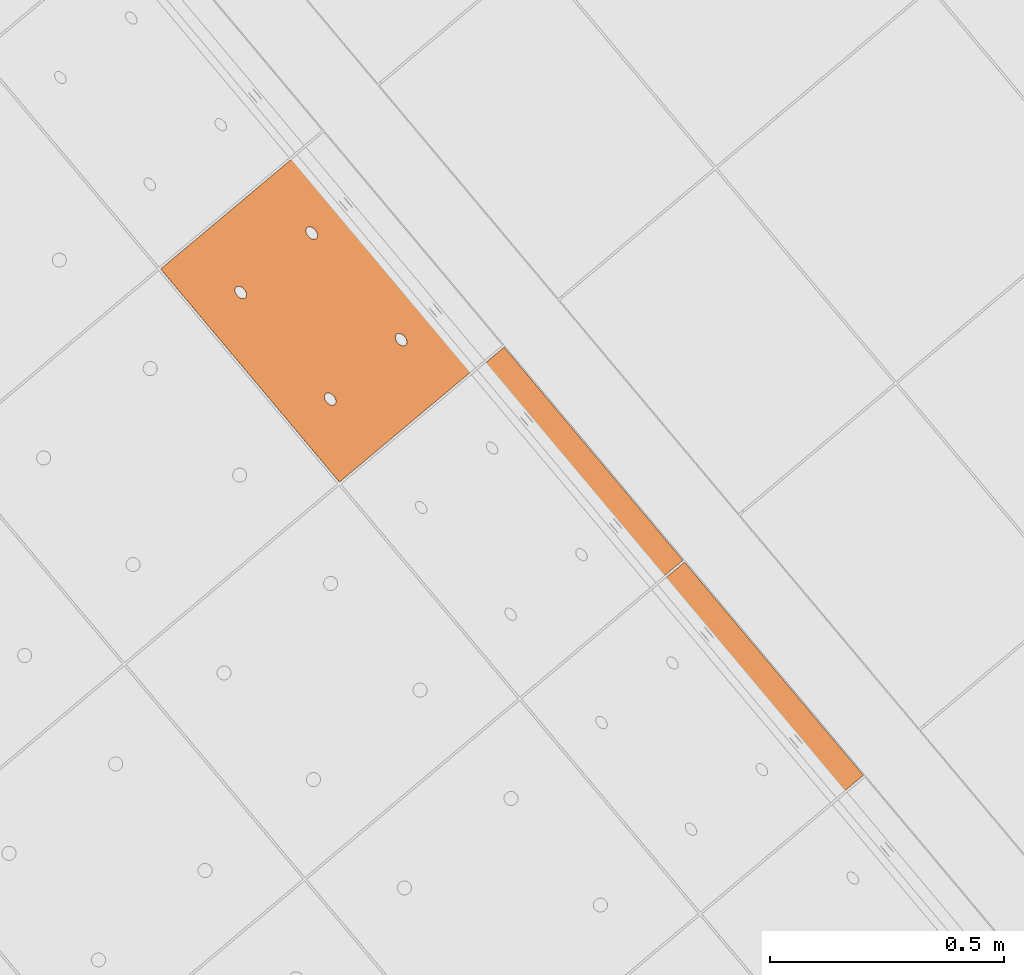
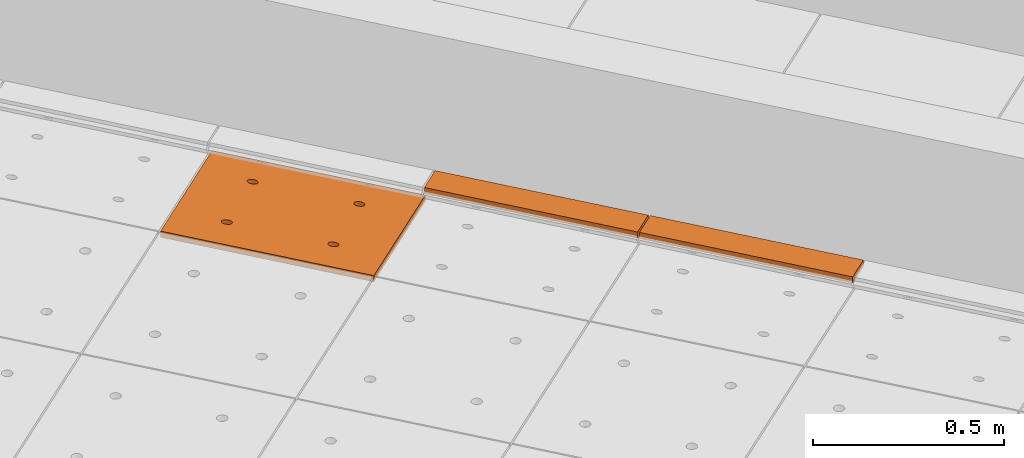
# One storey, part 205 of 338: 3 proxies, 1 element without a shape of its own.
"""IFC2X3 building model written with IfcOpenShell, lengths in millimetres."""

from ifc_helpers import new_model, entity, si_unit, converted_unit, derived_unit, money_unit, direction, frame, origin_with_axes, place, context, subcontext, project, spatial, faceted_brep, source, transform, mapped, material, type_object, type_shapes, element, aggregate, save


model = new_model("IFC2X3")

# Units and contexts
model_context = context("Model", 3, precision=0.01, world=origin_with_axes(), true_north=direction((0.0, 1.0)))
plan_context = context("Plan", 3, precision=0.01, world=origin_with_axes(), true_north=direction((0.0, 1.0)))
body_context = subcontext(model_context, "Body", "Model", "MODEL_VIEW")
ifc_project = project(units=[si_unit("LENGTHUNIT", "METRE", prefix="MILLI"), si_unit("AREAUNIT", "SQUARE_METRE"), si_unit("VOLUMEUNIT", "CUBIC_METRE"), converted_unit("PLANEANGLEUNIT", "DEGREE", entity("IfcPlaneAngleMeasure", 0.0174532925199), si_unit("PLANEANGLEUNIT", "RADIAN"), dimensions=[0, 0, 0, 0, 0, 0, 0]), money_unit("EUR"), converted_unit("TIMEUNIT", "Year", entity("IfcTimeMeasure", 31556926.0), si_unit("TIMEUNIT", "SECOND"), dimensions=[0, 0, 1, 0, 0, 0, 0]), si_unit("MASSUNIT", "GRAM", prefix="KILO"), si_unit("THERMODYNAMICTEMPERATUREUNIT", "DEGREE_CELSIUS"), si_unit("LUMINOUSINTENSITYUNIT", "LUMEN"), si_unit("ENERGYUNIT", "JOULE", prefix="MEGA"), derived_unit("THERMALCONDUCTANCEUNIT", [(si_unit("POWERUNIT", "WATT"), 1), (si_unit("LENGTHUNIT", "METRE"), -1), (si_unit("THERMODYNAMICTEMPERATUREUNIT", "KELVIN"), -1)]), derived_unit("SPECIFICHEATCAPACITYUNIT", [(si_unit("ENERGYUNIT", "JOULE"), 1), (si_unit("MASSUNIT", "GRAM", prefix="KILO"), -1), (si_unit("THERMODYNAMICTEMPERATUREUNIT", "KELVIN"), -1)]), derived_unit("MASSDENSITYUNIT", [(si_unit("MASSUNIT", "GRAM", prefix="KILO"), 1), (si_unit("VOLUMEUNIT", "CUBIC_METRE"), -1)])], contexts=[model_context, plan_context])

# Site, building, storey
site_placement = place(None, origin_with_axes())
site = spatial("IfcSite", under=ifc_project, at=site_placement, Name="Fortuinstraat Woensdrecht", CompositionType="ELEMENT")
building_placement = place(site_placement, origin_with_axes())
building = spatial("IfcBuilding", under=site, at=building_placement, Name="IKC Fortuna", CompositionType="ELEMENT")
storey_placement = place(building_placement, origin_with_axes())
storey = spatial("IfcBuildingStorey", under=building, at=storey_placement, Name="00 begane grond", CompositionType="ELEMENT", Elevation=0.0)

# Covering, proxies
covering_type = type_object("IfcCoveringType", Name="Curtain Wall Type", PredefinedType="CEILING")
covering_placement = place(storey_placement, frame((15863.124366, 4456.31398675, 4619.99995334), z_axis=(0.0, 0.0, 1.0), x_axis=(1.0, 0.0, 0.0)))
covering = element("IfcCovering", 1, at=covering_placement, inside=storey, type_object=covering_type, Name="45_Plafondafwerking_P01", PredefinedType="CEILING")
ifc_material = material(Name="Gipsplaat")
building_element_proxy_type_1 = type_object("IfcBuildingElementProxyType", Name="87 x 600 x 20", PredefinedType="NOTDEFINED")
shared_shape_1 = source(origin_with_axes(), body_context, "Body", "Brep", [
    faceted_brep([(142.231818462, 2.49999429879, -10.0), (224.589025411, 2.49999726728, -10.0), (224.589025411, 2.49999726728, 10.0), (142.231818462, 2.49999429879, 10.0), (142.231833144, 597.500001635, -10.0), (224.589035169, 597.499998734, -10.0), (224.589035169, 597.499998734, 10.0), (142.231833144, 597.500001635, 10.0)], [[[0, 1, 2, 3]], [[0, 4, 5, 1]], [[1, 5, 6, 2]], [[3, 2, 6, 7]], [[4, 0, 3, 7]], [[5, 4, 7, 6]]]),
])
proxy_1_placement = place(covering_placement, frame((-1369.97061144, 1632.66657941, 40.0000466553), z_axis=(0.0, 0.0, 1.0), x_axis=(1.0, 0.0, 0.0)))
proxy_1 = element("IfcBuildingElementProxy", 2, at=proxy_1_placement, type_object=building_element_proxy_type_1, material=ifc_material, Name="__600x735 Rockfon Krios", context=body_context, shape_type="MappedRepresentation", body=[
    mapped(shared_shape_1, transform((-52.3358293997, 347.707272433, -1.1901590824e-10), x_axis=(-0.766044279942, -0.642787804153, 0.0), y_axis=(0.642787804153, -0.766044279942, 0.0), z_axis=(0.0, 0.0, 1.0))),
])
shared_shape_2 = source(origin_with_axes(), body_context, "Body", "Brep", [
    faceted_brep([(142.231825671, 2.50000288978, -10.0), (224.589027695, 2.49999998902, -10.0), (224.589027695, 2.49999998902, 10.0), (142.231825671, 2.50000288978, 10.0), (142.231835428, 597.500004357, -10.0), (224.589037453, 597.500001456, -10.0), (224.589037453, 597.500001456, 10.0), (142.231835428, 597.500004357, 10.0)], [[[0, 1, 2, 3]], [[0, 4, 5, 1]], [[1, 5, 6, 2]], [[3, 2, 6, 7]], [[4, 0, 3, 7]], [[5, 4, 7, 6]]]),
])
type_shapes(building_element_proxy_type_1, [shared_shape_1, shared_shape_2])
proxy_2_placement = place(covering_placement, frame((-984.29792895, 1173.04001144, 40.0000466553), z_axis=(0.0, 0.0, 1.0), x_axis=(1.0, 0.0, 0.0)))
proxy_2 = element("IfcBuildingElementProxy", 3, at=proxy_2_placement, type_object=building_element_proxy_type_1, material=ifc_material, Name="__600x655 Rockfon Krios", context=body_context, shape_type="MappedRepresentation", body=[
    mapped(shared_shape_2, transform((-52.3358293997, 347.707272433, -1.1901590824e-10), x_axis=(-0.766044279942, -0.642787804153, 0.0), y_axis=(0.642787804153, -0.766044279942, 0.0), z_axis=(0.0, 0.0, 1.0))),
])
building_element_proxy_type_2 = type_object("IfcBuildingElementProxyType", Name="Main Panel 401 x 600 x 20", PredefinedType="NOTDEFINED")
shared_shape_3 = source(origin_with_axes(), body_context, "Body", "Brep", [
    faceted_brep([(2.49999200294, 2.49999800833, -10.0), (200.390796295, 2.49999800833, -10.0), (200.390796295, 2.49999800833, 10.0), (2.49999200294, 2.49999800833, 10.0), (2.49999200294, 299.999999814, -10.0), (2.49999200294, 597.50000162, -10.0), (200.390796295, 597.50000162, -10.0), (398.281600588, 597.50000162, -10.0), (398.281600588, 299.999999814, -10.0), (398.281600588, 2.49999800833, -10.0), (111.423081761, 450.062330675, -10.0), (111.119914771, 452.647116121, -10.0), (110.522792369, 455.113489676, -10.0), (109.649857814, 457.38651185, -10.0), (108.527634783, 459.397117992, -10.0), (107.190221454, 461.084216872, -10.0), (105.678254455, 462.39654683, -10.0), (104.037674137, 463.294233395, -10.0), (102.318328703, 463.750000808, -10.0), (100.572459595, 463.750000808, -10.0), (98.8531141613, 463.294233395, -10.0), (97.212533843, 462.39654683, -10.0), (95.7005668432, 461.084216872, -10.0), (94.3631535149, 459.397117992, -10.0), (93.240930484, 457.38651185, -10.0), (92.3679959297, 455.113489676, -10.0), (91.7708735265, 452.647116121, -10.0), (91.4677065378, 450.062330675, -10.0), (91.4677065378, 448.750000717, -10.0), (91.4677065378, 447.437670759, -10.0), (91.7708735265, 444.852885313, -10.0), (92.3679959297, 442.386511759, -10.0), (93.240930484, 440.113489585, -10.0), (94.3631535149, 438.102883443, -10.0), (95.7005668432, 436.415784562, -10.0), (97.212533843, 435.103454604, -10.0), (98.8531141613, 434.205768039, -10.0), (100.572459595, 433.750000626, -10.0), (102.318328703, 433.750000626, -10.0), (104.037674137, 434.205768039, -10.0), (105.678254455, 435.103454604, -10.0), (107.190221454, 436.415784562, -10.0), (108.527634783, 438.102883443, -10.0), (109.649857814, 440.113489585, -10.0), (110.522792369, 442.386511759, -10.0), (111.119914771, 444.852885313, -10.0), (111.423081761, 447.437670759, -10.0), (309.313886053, 450.062330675, -10.0), (309.010719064, 452.647116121, -10.0), (308.413596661, 455.113489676, -10.0), (307.540662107, 457.38651185, -10.0), (306.418439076, 459.397117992, -10.0), (305.081025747, 461.084216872, -10.0), (303.569058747, 462.39654683, -10.0), (301.928478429, 463.294233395, -10.0), (300.209132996, 463.750000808, -10.0), (298.463263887, 463.750000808, -10.0), (296.743918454, 463.294233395, -10.0), (295.103338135, 462.39654683, -10.0), (293.591371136, 461.084216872, -10.0), (292.253957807, 459.397117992, -10.0), (291.131734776, 457.38651185, -10.0), (290.258800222, 455.113489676, -10.0), (289.661677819, 452.647116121, -10.0), (289.35851083, 450.062330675, -10.0), (289.35851083, 448.750000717, -10.0), (289.35851083, 447.437670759, -10.0), (289.661677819, 444.852885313, -10.0), (290.258800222, 442.386511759, -10.0), (291.131734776, 440.113489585, -10.0), (292.253957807, 438.102883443, -10.0), (293.591371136, 436.415784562, -10.0), (295.103338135, 435.103454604, -10.0), (296.743918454, 434.205768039, -10.0), (298.463263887, 433.750000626, -10.0), (300.209132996, 433.750000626, -10.0), (301.928478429, 434.205768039, -10.0), (303.569058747, 435.103454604, -10.0), (305.081025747, 436.415784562, -10.0), (306.418439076, 438.102883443, -10.0), (307.540662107, 440.113489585, -10.0), (308.413596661, 442.386511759, -10.0), (309.010719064, 444.852885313, -10.0), (309.313886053, 447.437670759, -10.0), (309.313886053, 152.562328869, -10.0), (309.010719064, 155.147114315, -10.0), (308.413596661, 157.61348787, -10.0), (307.540662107, 159.886510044, -10.0), (306.418439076, 161.897116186, -10.0), (305.081025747, 163.584215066, -10.0), (303.569058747, 164.896545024, -10.0), (301.928478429, 165.79423159, -10.0), (300.209132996, 166.249999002, -10.0), (298.463263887, 166.249999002, -10.0), (296.743918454, 165.79423159, -10.0), (295.103338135, 164.896545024, -10.0), (293.591371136, 163.584215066, -10.0), (292.253957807, 161.897116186, -10.0), (291.131734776, 159.886510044, -10.0), (290.258800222, 157.61348787, -10.0), (289.661677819, 155.147114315, -10.0), (289.35851083, 152.562328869, -10.0), (289.35851083, 151.249998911, -10.0), (289.35851083, 149.937668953, -10.0), (289.661677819, 147.352883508, -10.0), (290.258800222, 144.886509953, -10.0), (291.131734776, 142.613487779, -10.0), (292.253957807, 140.602881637, -10.0), (293.591371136, 138.915782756, -10.0), (295.103338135, 137.603452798, -10.0), (296.743918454, 136.705766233, -10.0), (298.463263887, 136.24999882, -10.0), (300.209132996, 136.24999882, -10.0), (301.928478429, 136.705766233, -10.0), (303.569058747, 137.603452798, -10.0), (305.081025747, 138.915782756, -10.0), (306.418439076, 140.602881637, -10.0), (307.540662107, 142.613487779, -10.0), (308.413596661, 144.886509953, -10.0), (309.010719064, 147.352883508, -10.0), (309.313886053, 149.937668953, -10.0), (111.423081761, 152.562328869, -10.0), (111.119914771, 155.147114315, -10.0), (110.522792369, 157.61348787, -10.0), (109.649857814, 159.886510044, -10.0), (108.527634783, 161.897116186, -10.0), (107.190221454, 163.584215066, -10.0), (105.678254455, 164.896545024, -10.0), (104.037674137, 165.79423159, -10.0), (102.318328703, 166.249999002, -10.0), (100.572459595, 166.249999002, -10.0), (98.8531141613, 165.79423159, -10.0), (97.212533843, 164.896545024, -10.0), (95.7005668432, 163.584215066, -10.0), (94.3631535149, 161.897116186, -10.0), (93.240930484, 159.886510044, -10.0), (92.3679959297, 157.61348787, -10.0), (91.7708735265, 155.147114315, -10.0), (91.4677065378, 152.562328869, -10.0), (91.4677065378, 151.249998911, -10.0), (91.4677065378, 149.937668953, -10.0), (91.7708735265, 147.352883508, -10.0), (92.3679959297, 144.886509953, -10.0), (93.240930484, 142.613487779, -10.0), (94.3631535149, 140.602881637, -10.0), (95.7005668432, 138.915782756, -10.0), (97.212533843, 137.603452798, -10.0), (98.8531141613, 136.705766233, -10.0), (100.572459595, 136.24999882, -10.0), (102.318328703, 136.24999882, -10.0), (104.037674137, 136.705766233, -10.0), (105.678254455, 137.603452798, -10.0), (107.190221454, 138.915782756, -10.0), (108.527634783, 140.602881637, -10.0), (109.649857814, 142.613487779, -10.0), (110.522792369, 144.886509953, -10.0), (111.119914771, 147.352883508, -10.0), (111.423081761, 149.937668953, -10.0), (398.281600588, 2.49999800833, 10.0), (398.281600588, 299.999999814, 10.0), (398.281600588, 597.50000162, 10.0), (200.390796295, 597.50000162, 10.0), (2.49999200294, 597.50000162, 10.0), (2.49999200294, 299.999999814, 10.0), (111.423081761, 450.062330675, 10.0), (111.423081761, 447.437670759, 10.0), (111.119914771, 444.852885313, 10.0), (110.522792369, 442.386511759, 10.0), (109.649857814, 440.113489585, 10.0), (108.527634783, 438.102883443, 10.0), (107.190221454, 436.415784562, 10.0), (105.678254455, 435.103454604, 10.0), (104.037674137, 434.205768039, 10.0), (102.318328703, 433.750000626, 10.0), (100.572459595, 433.750000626, 10.0), (98.8531141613, 434.205768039, 10.0), (97.212533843, 435.103454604, 10.0), (95.7005668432, 436.415784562, 10.0), (94.3631535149, 438.102883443, 10.0), (93.240930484, 440.113489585, 10.0), (92.3679959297, 442.386511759, 10.0), (91.7708735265, 444.852885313, 10.0), (91.4677065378, 447.437670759, 10.0), (91.4677065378, 448.750000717, 10.0), (91.4677065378, 450.062330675, 10.0), (91.7708735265, 452.647116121, 10.0), (92.3679959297, 455.113489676, 10.0), (93.240930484, 457.38651185, 10.0), (94.3631535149, 459.397117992, 10.0), (95.7005668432, 461.084216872, 10.0), (97.212533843, 462.39654683, 10.0), (98.8531141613, 463.294233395, 10.0), (100.572459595, 463.750000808, 10.0), (102.318328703, 463.750000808, 10.0), (104.037674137, 463.294233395, 10.0), (105.678254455, 462.39654683, 10.0), (107.190221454, 461.084216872, 10.0), (108.527634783, 459.397117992, 10.0), (109.649857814, 457.38651185, 10.0), (110.522792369, 455.113489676, 10.0), (111.119914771, 452.647116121, 10.0), (309.313886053, 450.062330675, 10.0), (309.313886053, 447.437670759, 10.0), (309.010719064, 444.852885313, 10.0), (308.413596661, 442.386511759, 10.0), (307.540662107, 440.113489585, 10.0), (306.418439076, 438.102883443, 10.0), (305.081025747, 436.415784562, 10.0), (303.569058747, 435.103454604, 10.0), (301.928478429, 434.205768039, 10.0), (300.209132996, 433.750000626, 10.0), (298.463263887, 433.750000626, 10.0), (296.743918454, 434.205768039, 10.0), (295.103338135, 435.103454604, 10.0), (293.591371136, 436.415784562, 10.0), (292.253957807, 438.102883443, 10.0), (291.131734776, 440.113489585, 10.0), (290.258800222, 442.386511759, 10.0), (289.661677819, 444.852885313, 10.0), (289.35851083, 447.437670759, 10.0), (289.35851083, 448.750000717, 10.0), (289.35851083, 450.062330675, 10.0), (289.661677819, 452.647116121, 10.0), (290.258800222, 455.113489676, 10.0), (291.131734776, 457.38651185, 10.0), (292.253957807, 459.397117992, 10.0), (293.591371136, 461.084216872, 10.0), (295.103338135, 462.39654683, 10.0), (296.743918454, 463.294233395, 10.0), (298.463263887, 463.750000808, 10.0), (300.209132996, 463.750000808, 10.0), (301.928478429, 463.294233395, 10.0), (303.569058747, 462.39654683, 10.0), (305.081025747, 461.084216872, 10.0), (306.418439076, 459.397117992, 10.0), (307.540662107, 457.38651185, 10.0), (308.413596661, 455.113489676, 10.0), (309.010719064, 452.647116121, 10.0), (309.313886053, 152.562328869, 10.0), (309.313886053, 149.937668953, 10.0), (309.010719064, 147.352883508, 10.0), (308.413596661, 144.886509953, 10.0), (307.540662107, 142.613487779, 10.0), (306.418439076, 140.602881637, 10.0), (305.081025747, 138.915782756, 10.0), (303.569058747, 137.603452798, 10.0), (301.928478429, 136.705766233, 10.0), (300.209132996, 136.24999882, 10.0), (298.463263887, 136.24999882, 10.0), (296.743918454, 136.705766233, 10.0), (295.103338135, 137.603452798, 10.0), (293.591371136, 138.915782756, 10.0), (292.253957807, 140.602881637, 10.0), (291.131734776, 142.613487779, 10.0), (290.258800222, 144.886509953, 10.0), (289.661677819, 147.352883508, 10.0), (289.35851083, 149.937668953, 10.0), (289.35851083, 151.249998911, 10.0), (289.35851083, 152.562328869, 10.0), (289.661677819, 155.147114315, 10.0), (290.258800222, 157.61348787, 10.0), (291.131734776, 159.886510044, 10.0), (292.253957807, 161.897116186, 10.0), (293.591371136, 163.584215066, 10.0), (295.103338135, 164.896545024, 10.0), (296.743918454, 165.79423159, 10.0), (298.463263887, 166.249999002, 10.0), (300.209132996, 166.249999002, 10.0), (301.928478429, 165.79423159, 10.0), (303.569058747, 164.896545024, 10.0), (305.081025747, 163.584215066, 10.0), (306.418439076, 161.897116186, 10.0), (307.540662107, 159.886510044, 10.0), (308.413596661, 157.61348787, 10.0), (309.010719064, 155.147114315, 10.0), (111.423081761, 152.562328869, 10.0), (111.423081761, 149.937668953, 10.0), (111.119914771, 147.352883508, 10.0), (110.522792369, 144.886509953, 10.0), (109.649857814, 142.613487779, 10.0), (108.527634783, 140.602881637, 10.0), (107.190221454, 138.915782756, 10.0), (105.678254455, 137.603452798, 10.0), (104.037674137, 136.705766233, 10.0), (102.318328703, 136.24999882, 10.0), (100.572459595, 136.24999882, 10.0), (98.8531141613, 136.705766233, 10.0), (97.212533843, 137.603452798, 10.0), (95.7005668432, 138.915782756, 10.0), (94.3631535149, 140.602881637, 10.0), (93.240930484, 142.613487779, 10.0), (92.3679959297, 144.886509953, 10.0), (91.7708735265, 147.352883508, 10.0), (91.4677065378, 149.937668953, 10.0), (91.4677065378, 151.249998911, 10.0), (91.4677065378, 152.562328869, 10.0), (91.7708735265, 155.147114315, 10.0), (92.3679959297, 157.61348787, 10.0), (93.240930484, 159.886510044, 10.0), (94.3631535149, 161.897116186, 10.0), (95.7005668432, 163.584215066, 10.0), (97.212533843, 164.896545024, 10.0), (98.8531141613, 165.79423159, 10.0), (100.572459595, 166.249999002, 10.0), (102.318328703, 166.249999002, 10.0), (104.037674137, 165.79423159, 10.0), (105.678254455, 164.896545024, 10.0), (107.190221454, 163.584215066, 10.0), (108.527634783, 161.897116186, 10.0), (109.649857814, 159.886510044, 10.0), (110.522792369, 157.61348787, 10.0), (111.119914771, 155.147114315, 10.0)], [[[0, 1, 2, 3]], [[0, 4, 5, 6, 7, 8, 9, 1], [10, 11, 12, 13, 14, 15, 16, 17, 18, 19, 20, 21, 22, 23, 24, 25, 26, 27, 28, 29, 30, 31, 32, 33, 34, 35, 36, 37, 38, 39, 40, 41, 42, 43, 44, 45, 46], [47, 48, 49, 50, 51, 52, 53, 54, 55, 56, 57, 58, 59, 60, 61, 62, 63, 64, 65, 66, 67, 68, 69, 70, 71, 72, 73, 74, 75, 76, 77, 78, 79, 80, 81, 82, 83], [84, 85, 86, 87, 88, 89, 90, 91, 92, 93, 94, 95, 96, 97, 98, 99, 100, 101, 102, 103, 104, 105, 106, 107, 108, 109, 110, 111, 112, 113, 114, 115, 116, 117, 118, 119, 120], [121, 122, 123, 124, 125, 126, 127, 128, 129, 130, 131, 132, 133, 134, 135, 136, 137, 138, 139, 140, 141, 142, 143, 144, 145, 146, 147, 148, 149, 150, 151, 152, 153, 154, 155, 156, 157]], [[1, 9, 158, 2]], [[3, 2, 158, 159, 160, 161, 162, 163], [164, 165, 166, 167, 168, 169, 170, 171, 172, 173, 174, 175, 176, 177, 178, 179, 180, 181, 182, 183, 184, 185, 186, 187, 188, 189, 190, 191, 192, 193, 194, 195, 196, 197, 198, 199, 200], [201, 202, 203, 204, 205, 206, 207, 208, 209, 210, 211, 212, 213, 214, 215, 216, 217, 218, 219, 220, 221, 222, 223, 224, 225, 226, 227, 228, 229, 230, 231, 232, 233, 234, 235, 236, 237], [238, 239, 240, 241, 242, 243, 244, 245, 246, 247, 248, 249, 250, 251, 252, 253, 254, 255, 256, 257, 258, 259, 260, 261, 262, 263, 264, 265, 266, 267, 268, 269, 270, 271, 272, 273, 274], [275, 276, 277, 278, 279, 280, 281, 282, 283, 284, 285, 286, 287, 288, 289, 290, 291, 292, 293, 294, 295, 296, 297, 298, 299, 300, 301, 302, 303, 304, 305, 306, 307, 308, 309, 310, 311]], [[4, 0, 3, 163]], [[5, 4, 163, 162]], [[6, 5, 162, 161]], [[7, 6, 161, 160]], [[8, 7, 160, 159]], [[9, 8, 159, 158]], [[11, 10, 164, 200]], [[12, 11, 200, 199]], [[13, 12, 199, 198]], [[14, 13, 198, 197]], [[15, 14, 197, 196]], [[16, 15, 196, 195]], [[17, 16, 195, 194]], [[18, 17, 194, 193]], [[19, 18, 193, 192]], [[20, 19, 192, 191]], [[21, 20, 191, 190]], [[22, 21, 190, 189]], [[23, 22, 189, 188]], [[24, 23, 188, 187]], [[25, 24, 187, 186]], [[26, 25, 186, 185]], [[27, 26, 185, 184]], [[28, 27, 184, 183]], [[29, 28, 183, 182]], [[30, 29, 182, 181]], [[31, 30, 181, 180]], [[32, 31, 180, 179]], [[33, 32, 179, 178]], [[34, 33, 178, 177]], [[35, 34, 177, 176]], [[36, 35, 176, 175]], [[37, 36, 175, 174]], [[38, 37, 174, 173]], [[39, 38, 173, 172]], [[40, 39, 172, 171]], [[41, 40, 171, 170]], [[42, 41, 170, 169]], [[43, 42, 169, 168]], [[44, 43, 168, 167]], [[45, 44, 167, 166]], [[46, 45, 166, 165]], [[10, 46, 165, 164]], [[48, 47, 201, 237]], [[49, 48, 237, 236]], [[50, 49, 236, 235]], [[51, 50, 235, 234]], [[52, 51, 234, 233]], [[53, 52, 233, 232]], [[54, 53, 232, 231]], [[55, 54, 231, 230]], [[56, 55, 230, 229]], [[57, 56, 229, 228]], [[58, 57, 228, 227]], [[59, 58, 227, 226]], [[60, 59, 226, 225]], [[61, 60, 225, 224]], [[62, 61, 224, 223]], [[63, 62, 223, 222]], [[64, 63, 222, 221]], [[65, 64, 221, 220]], [[66, 65, 220, 219]], [[67, 66, 219, 218]], [[68, 67, 218, 217]], [[69, 68, 217, 216]], [[70, 69, 216, 215]], [[71, 70, 215, 214]], [[72, 71, 214, 213]], [[73, 72, 213, 212]], [[74, 73, 212, 211]], [[75, 74, 211, 210]], [[76, 75, 210, 209]], [[77, 76, 209, 208]], [[78, 77, 208, 207]], [[79, 78, 207, 206]], [[80, 79, 206, 205]], [[81, 80, 205, 204]], [[82, 81, 204, 203]], [[83, 82, 203, 202]], [[47, 83, 202, 201]], [[85, 84, 238, 274]], [[86, 85, 274, 273]], [[87, 86, 273, 272]], [[88, 87, 272, 271]], [[89, 88, 271, 270]], [[90, 89, 270, 269]], [[91, 90, 269, 268]], [[92, 91, 268, 267]], [[93, 92, 267, 266]], [[94, 93, 266, 265]], [[95, 94, 265, 264]], [[96, 95, 264, 263]], [[97, 96, 263, 262]], [[98, 97, 262, 261]], [[99, 98, 261, 260]], [[100, 99, 260, 259]], [[101, 100, 259, 258]], [[102, 101, 258, 257]], [[103, 102, 257, 256]], [[104, 103, 256, 255]], [[105, 104, 255, 254]], [[106, 105, 254, 253]], [[107, 106, 253, 252]], [[108, 107, 252, 251]], [[109, 108, 251, 250]], [[110, 109, 250, 249]], [[111, 110, 249, 248]], [[112, 111, 248, 247]], [[113, 112, 247, 246]], [[114, 113, 246, 245]], [[115, 114, 245, 244]], [[116, 115, 244, 243]], [[117, 116, 243, 242]], [[118, 117, 242, 241]], [[119, 118, 241, 240]], [[120, 119, 240, 239]], [[84, 120, 239, 238]], [[122, 121, 275, 311]], [[123, 122, 311, 310]], [[124, 123, 310, 309]], [[125, 124, 309, 308]], [[126, 125, 308, 307]], [[127, 126, 307, 306]], [[128, 127, 306, 305]], [[129, 128, 305, 304]], [[130, 129, 304, 303]], [[131, 130, 303, 302]], [[132, 131, 302, 301]], [[133, 132, 301, 300]], [[134, 133, 300, 299]], [[135, 134, 299, 298]], [[136, 135, 298, 297]], [[137, 136, 297, 296]], [[138, 137, 296, 295]], [[139, 138, 295, 294]], [[140, 139, 294, 293]], [[141, 140, 293, 292]], [[142, 141, 292, 291]], [[143, 142, 291, 290]], [[144, 143, 290, 289]], [[145, 144, 289, 288]], [[146, 145, 288, 287]], [[147, 146, 287, 286]], [[148, 147, 286, 285]], [[149, 148, 285, 284]], [[150, 149, 284, 283]], [[151, 150, 283, 282]], [[152, 151, 282, 281]], [[153, 152, 281, 280]], [[154, 153, 280, 279]], [[155, 154, 279, 278]], [[156, 155, 278, 277]], [[157, 156, 277, 276]], [[121, 157, 276, 275]]]),
])
type_shapes(building_element_proxy_type_2, [shared_shape_3])
proxy_3_placement = place(covering_placement, frame((-1921.34168941, 1953.25561316, 1.08315923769), z_axis=(0.0, 0.0, 1.0), x_axis=(0.642787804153, -0.766044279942, 0.0)))
proxy_3 = element("IfcBuildingElementProxy", 4, at=proxy_3_placement, type_object=building_element_proxy_type_2, material=ifc_material, Name="__600x009 Rockfon Krios", context=body_context, shape_type="MappedRepresentation", body=[
    mapped(shared_shape_3, transform((-300.0, 200.387875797, -1.08311258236), x_axis=(0.0, -0.999985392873, 0.00540500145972), y_axis=(1.0, 0.0, 0.0), z_axis=(0.0, 0.00540500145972, 0.999985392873))),
])
aggregate(covering, [proxy_2, proxy_1, proxy_3])

save(model, "model.ifc")
